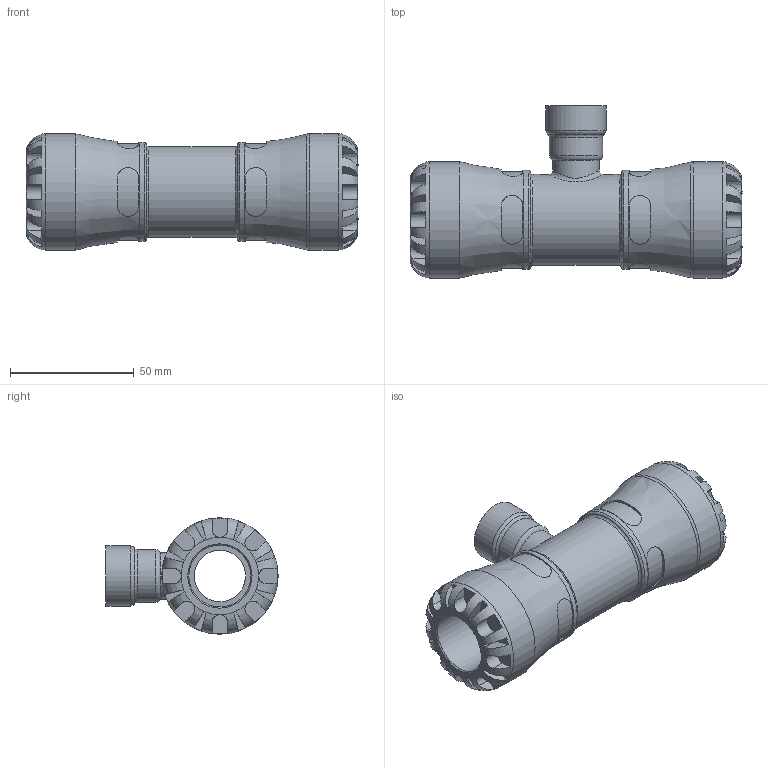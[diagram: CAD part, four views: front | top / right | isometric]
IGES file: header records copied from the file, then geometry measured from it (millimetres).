
Global section: file name: 101400025005_191400025005.ipt; native system: Autodesk Inventor 2015; preprocessor: unknown; author: KIM; date: 20170130.090636; units: millimetre
Bounding box: 134 x 69.5 x 47 mm (x, y, z)
Volume: 121466.7 mm3; surface area: 36107.7 mm2
Topology: 1 solids, 1 shells, 202 faces, 527 edges, 337 vertices
Faces by surface type: plane 118, revolution 51, cylinder 32, bspline 1
Full cylindrical faces by diameter (mm): 18.631 x1, 21.426 x1, 24.22 x1, 36.66 x1, 39.95 x2, 47 x2
